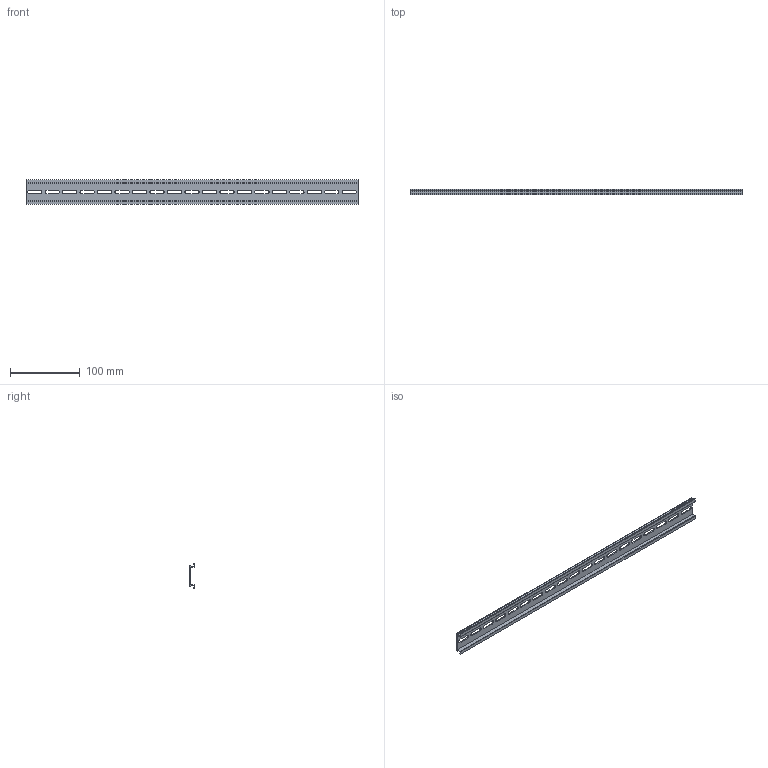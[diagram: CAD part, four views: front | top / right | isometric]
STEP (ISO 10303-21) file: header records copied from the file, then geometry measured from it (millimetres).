
FILE_DESCRIPTION( (''), '2;1');
FILE_NAME ('CVICAD02.15516.DIN-RAIL475_7462.stp','2020-09-01T14:18:45',(''),(''),'spGate 12.6.6','','');
FILE_SCHEMA (('AUTOMOTIVE_DESIGN'));
Length unit declared in the file: millimetre
Bounding box: 475 x 7.5 x 35 mm (x, y, z)
Volume: 33535 mm3; surface area: 44819 mm2
Topology: 1 solids, 1 shells, 96 faces, 282 edges, 188 vertices
Faces by surface type: plane 56, cylinder 40
Entity records: 5477 total; most frequent: CARTESIAN_POINT 566, ORIENTED_EDGE 564, DIRECTION 554, COLOUR_RGB 379, PRESENTATION_STYLE_ASSIGNMENT 379, STYLED_ITEM 379, EDGE_CURVE 282, DRAUGHTING_PRE_DEFINED_CURVE_FONT 282
